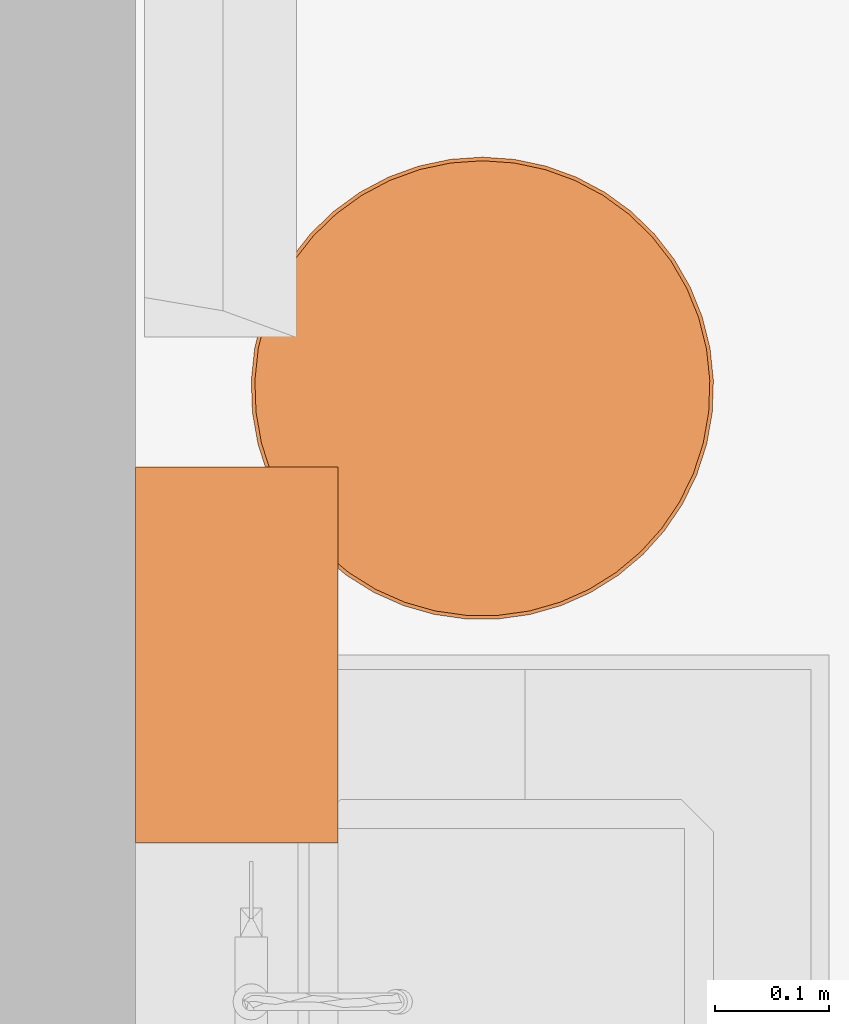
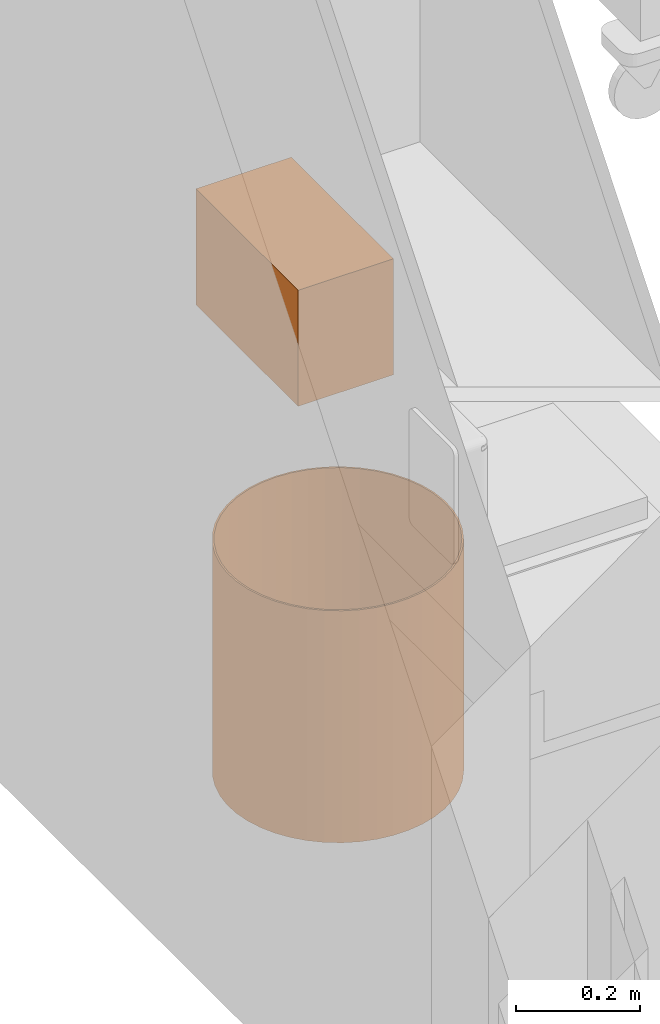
# One storey, part 106 of 142: 2 proxies.
"""IFC2X3 building model written with IfcOpenShell, lengths in feet."""

from ifc_helpers import new_model, entity, si_unit, converted_unit, derived_unit, direction, frame, frame_2d, origin, place, context, subcontext, project, spatial, rectangle, circle, hollow_circle, extrude, source, transform, mapped, type_object, type_shapes, element, save


model = new_model("IFC2X3")

# Units and contexts
model_context = context("Model", 3, precision=0.0001, world=origin(), true_north=direction((6.12303176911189e-17, 1.0)))
body_context = subcontext(model_context, "Body", "Model", "MODEL_VIEW")
ifc_project = project(units=[converted_unit("LENGTHUNIT", "FOOT", entity("IfcRatioMeasure", 0.3048), si_unit("LENGTHUNIT", "METRE"), dimensions=[1, 0, 0, 0, 0, 0, 0]), converted_unit("AREAUNIT", "SQUARE FOOT", entity("IfcRatioMeasure", 0.09290304), si_unit("AREAUNIT", "SQUARE_METRE"), dimensions=[2, 0, 0, 0, 0, 0, 0]), converted_unit("VOLUMEUNIT", "CUBIC FOOT", entity("IfcRatioMeasure", 0.028316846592), si_unit("VOLUMEUNIT", "CUBIC_METRE"), dimensions=[3, 0, 0, 0, 0, 0, 0]), converted_unit("PLANEANGLEUNIT", "DEGREE", entity("IfcRatioMeasure", 0.0174532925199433), si_unit("PLANEANGLEUNIT", "RADIAN"), dimensions=[0, 0, 0, 0, 0, 0, 0]), si_unit("MASSUNIT", "GRAM", prefix="KILO"), derived_unit("MASSDENSITYUNIT", [(si_unit("MASSUNIT", "GRAM", prefix="KILO"), 1), (si_unit("LENGTHUNIT", "METRE"), -3)]), si_unit("TIMEUNIT", "SECOND"), si_unit("FREQUENCYUNIT", "HERTZ"), si_unit("THERMODYNAMICTEMPERATUREUNIT", "DEGREE_CELSIUS"), derived_unit("THERMALTRANSMITTANCEUNIT", [(si_unit("MASSUNIT", "GRAM", prefix="KILO"), 1), (si_unit("THERMODYNAMICTEMPERATUREUNIT", "KELVIN"), -1), (si_unit("TIMEUNIT", "SECOND"), -3)]), derived_unit("VOLUMETRICFLOWRATEUNIT", [(si_unit("LENGTHUNIT", "METRE"), 3), (si_unit("TIMEUNIT", "SECOND"), -1)]), si_unit("ELECTRICCURRENTUNIT", "AMPERE"), si_unit("ELECTRICVOLTAGEUNIT", "VOLT"), si_unit("POWERUNIT", "WATT"), si_unit("FORCEUNIT", "NEWTON"), si_unit("ILLUMINANCEUNIT", "LUX"), si_unit("LUMINOUSFLUXUNIT", "LUMEN"), si_unit("LUMINOUSINTENSITYUNIT", "CANDELA"), derived_unit("USERDEFINED", [(si_unit("MASSUNIT", "GRAM", prefix="KILO"), -1), (si_unit("LENGTHUNIT", "METRE"), -2), (si_unit("TIMEUNIT", "SECOND"), 3), (si_unit("LUMINOUSFLUXUNIT", "LUMEN"), 1)]), derived_unit("LINEARVELOCITYUNIT", [(si_unit("LENGTHUNIT", "METRE"), 1), (si_unit("TIMEUNIT", "SECOND"), -1)]), si_unit("PRESSUREUNIT", "PASCAL"), derived_unit("USERDEFINED", [(si_unit("LENGTHUNIT", "METRE"), -2), (si_unit("MASSUNIT", "GRAM", prefix="KILO"), 1), (si_unit("TIMEUNIT", "SECOND"), -2)])], contexts=[model_context])

# Site, building, storey, space
site_placement = place(None, origin())
site = spatial("IfcSite", under=ifc_project, at=site_placement, Name="Default", CompositionType="ELEMENT")
building_placement = place(site_placement, origin())
building = spatial("IfcBuilding", under=site, at=building_placement, Name="OUTPATIENT / PACT CLINIC (Ch. 265)", CompositionType="ELEMENT")
storey_placement = place(building_placement, origin())
storey = spatial("IfcBuildingStorey", under=building, at=storey_placement, Name="LEVEL 1", CompositionType="ELEMENT", Elevation=0.0)
space_placement = place(storey_placement, origin())
space = spatial("IfcSpace", under=storey, at=space_placement, Name="EXPA1", CompositionType="ELEMENT", InteriorOrExteriorSpace="INTERNAL")

# Proxies
building_element_proxy_type_1 = type_object("IfcBuildingElementProxyType", Name="F2000 - Basket, Wastepaper", PredefinedType="NOTDEFINED")
shared_shape_1 = source(origin(), body_context, "Body", "SweptSolid", [
    extrude(circle(Radius=0.666666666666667, at=frame_2d((0.0, -1.07702971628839e-15), x_axis=(1.0, 0.0))), origin(), (0.0, 0.0, 1.0), 0.0104166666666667),
    extrude(hollow_circle(Radius=0.666666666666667, WallThickness=0.0104166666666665, at=frame_2d((0.0, -1.07702971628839e-15), x_axis=(1.0, 0.0))), frame((0.0, 0.0, 0.0104166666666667)), (0.0, 0.0, 1.0), 1.48958333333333),
])
type_shapes(building_element_proxy_type_1, [shared_shape_1])
proxy_1_placement = place(space_placement, frame((436.254976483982, -917.068172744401, 0.0), z_axis=(0.0, 0.0, 1.0), x_axis=(0.0, 1.0, 0.0)))
element("IfcBuildingElementProxy", 1, at=proxy_1_placement, inside=space, type_object=building_element_proxy_type_1, Name="F2000 - Basket, Wastepaper:F2000 - Basket, Wastepaper", ObjectType="F2000 - Basket, Wastepaper", context=body_context, shape_type="MappedRepresentation", body=[
    mapped(shared_shape_1, transform((0.0, 0.0, 0.0), scale=1.0)),
])
building_element_proxy_type_2 = type_object("IfcBuildingElementProxyType", Name="A5080 - Dispenser, Paper Towel", PredefinedType="NOTDEFINED")
shared_shape_2 = source(origin(), body_context, "Body", "SweptSolid", [
    extrude(rectangle(XDim=0.58333333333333, YDim=1.08333333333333, at=frame_2d((9.99200722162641e-16, 0.0), x_axis=(1.0, 0.0))), frame((0.0, -0.291666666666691, 0.0), z_axis=(0.0, 0.0, 1.0), x_axis=(0.0, 1.0, 0.0)), (0.0, 0.0, 1.0), 0.75),
])
type_shapes(building_element_proxy_type_2, [shared_shape_2])
proxy_2_placement = place(space_placement, frame((435.254976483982, -917.837175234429, 3.5), z_axis=(0.0, 0.0, 1.0), x_axis=(0.0, 1.0, 0.0)))
element("IfcBuildingElementProxy", 2, at=proxy_2_placement, inside=space, type_object=building_element_proxy_type_2, Name="A5080 - Dispenser, Paper Towel:A5080 - Dispenser, Paper Towel", ObjectType="A5080 - Dispenser, Paper Towel", context=body_context, shape_type="MappedRepresentation", body=[
    mapped(shared_shape_2, transform((0.0, 0.0, 0.0), scale=1.0)),
])

save(model, "model.ifc")
